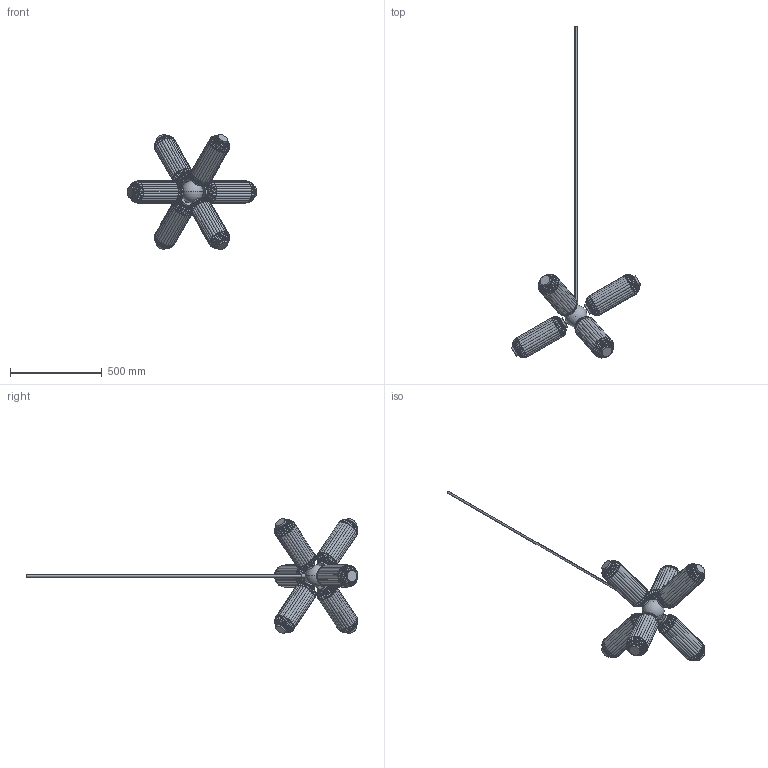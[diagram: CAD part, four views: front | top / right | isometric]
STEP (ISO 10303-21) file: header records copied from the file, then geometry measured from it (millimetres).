
FILE_DESCRIPTION (( 'STEP AP214' ), '1' );
FILE_NAME ('Prueba_otra_M.STEP', '2023-10-17T09:51:19', ( '' ), ( '' ), 'SwSTEP 2.0', 'SolidWorks 2018', '' );
FILE_SCHEMA (( 'AUTOMOTIVE_DESIGN' ));
Length unit declared in the file: millimetre
Products named in the file (10): Prueba_otra_M; Cabezal_ELMA; Colgante_6
Assembly tree (7 placements, depth 2):
  Prueba_otra_M
    Colgante_6
    Cabezal_ELMA  x6
  Cabezal_ELMA
  Cabezal_ELMA
  Cabezal_ELMA
  Cabezal_ELMA
Bounding box: 705.45 x 1806.46 x 624.68 mm (x, y, z)
Volume: 10878241.9 mm3; surface area: 2009910.9 mm2
Topology: 28 solids, 28 shells, 1214 faces, 2823 edges, 1664 vertices
Faces by surface type: torus 648, plane 344, cylinder 220, sphere 2
Entity records: 9611 total; most frequent: CARTESIAN_POINT 4368, DIRECTION 1140, ORIENTED_EDGE 1016, AXIS2_PLACEMENT_3D 545, EDGE_CURVE 508, CIRCLE 310, VERTEX_POINT 301, EDGE_LOOP 225
